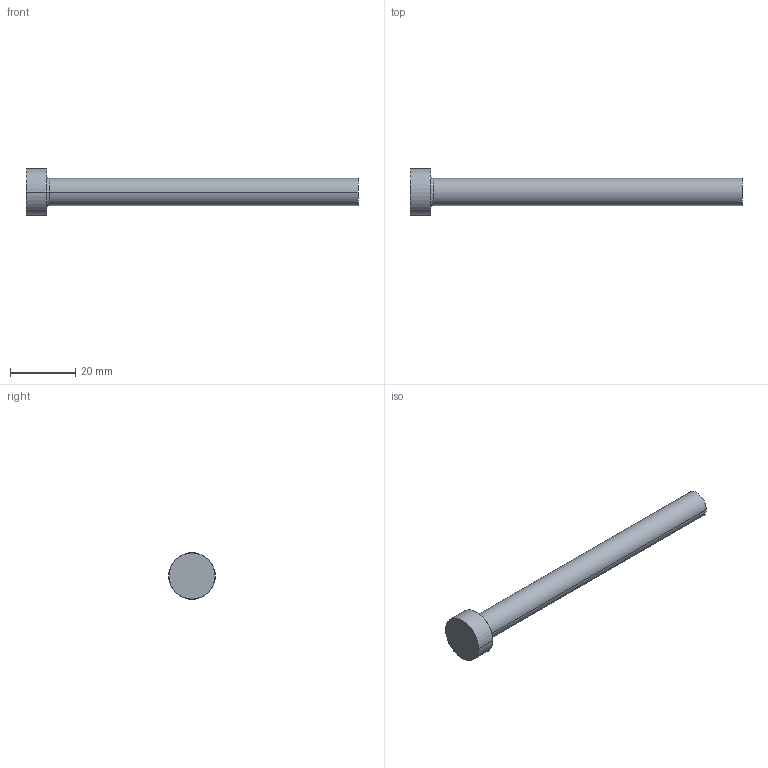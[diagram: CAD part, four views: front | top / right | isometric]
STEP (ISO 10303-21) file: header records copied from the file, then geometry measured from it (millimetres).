
FILE_DESCRIPTION (( 'STEP AP214' ), '1' );
FILE_NAME ('P22-4.STEP', '2020-03-12T09:39:12', ( '' ), ( '' ), 'SwSTEP 2.0', 'SolidWorks 2018', '' );
FILE_SCHEMA (( 'AUTOMOTIVE_DESIGN' ));
Length unit declared in the file: inch
Products named in the file (1): P22-4
Bounding box: 101.6 x 14.29 x 14.29 mm (x, y, z)
Volume: 6207.9 mm3; surface area: 3083.7 mm2
Topology: 1 solids, 1 shells, 13 faces, 24 edges, 14 vertices
Faces by surface type: cone 4, cylinder 4, plane 3, torus 2
Entity records: 366 total; most frequent: DIRECTION 68, CARTESIAN_POINT 52, ORIENTED_EDGE 48, AXIS2_PLACEMENT_3D 30, EDGE_CURVE 24, CIRCLE 16, EDGE_LOOP 14, VERTEX_POINT 14
